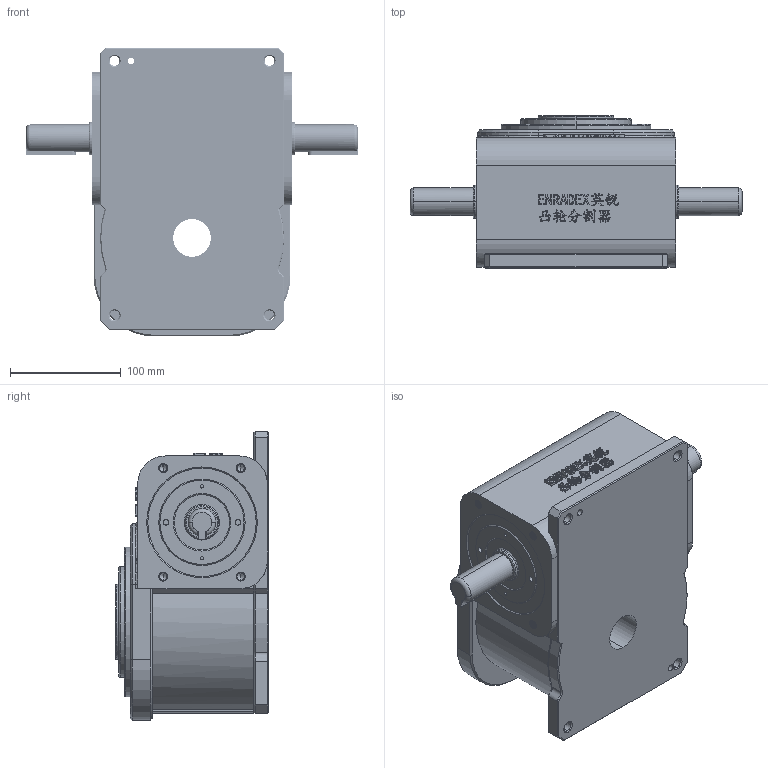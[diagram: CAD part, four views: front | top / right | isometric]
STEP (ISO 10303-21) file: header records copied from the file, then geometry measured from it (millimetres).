
FILE_DESCRIPTION (( 'STEP AP214' ), '1' );
FILE_NAME ('ER-RU90DA英锐凸轮分割器3D固定盘壳体和法兰面加销孔标准图纸(电话15062628977)AA.STEP', '2022-07-23T04:07:56', ( '微软用户' ), ( '微软中国' ), 'SwSTEP 2.0', 'SolidWorks 2017', '' );
FILE_SCHEMA (( 'AUTOMOTIVE_DESIGN' ));
Length unit declared in the file: millimetre
Products named in the file (1): ER-RU90DA英锐凸轮分割器3D固定盘壳体和法兰面加销孔标准图纸(电话15062628977)AA
Bounding box: 300 x 138 x 261 mm (x, y, z)
Volume: 4742488.9 mm3; surface area: 234839.8 mm2
Topology: 1 solids, 1 shells, 1635 faces, 4283 edges, 2763 vertices
Faces by surface type: cylinder 620, plane 490, bspline 356, cone 153, torus 16
Entity records: 123000 total; most frequent: CARTESIAN_POINT 87948, ORIENTED_EDGE 8478, DIRECTION 5339, EDGE_CURVE 4239, VERTEX_POINT 2763, VECTOR 1991, LINE 1991, EDGE_LOOP 1806
